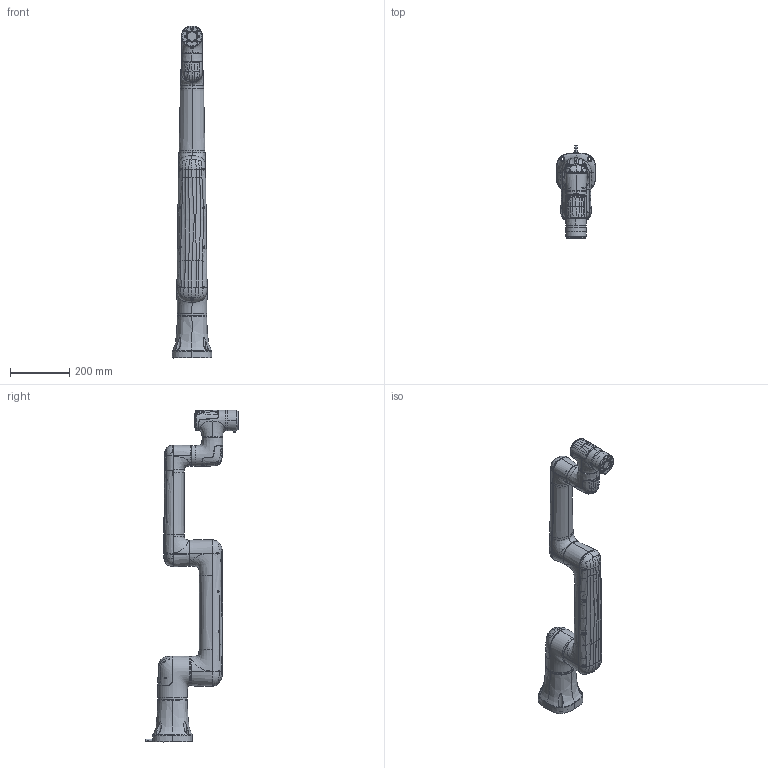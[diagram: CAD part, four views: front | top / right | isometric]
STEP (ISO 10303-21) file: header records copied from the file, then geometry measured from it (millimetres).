
FILE_DESCRIPTION((''),'2;1');
FILE_NAME('NC05-850-STP-20221011_ASM_1_ASM','2022-10-27T10:04:22',('Administrator'),(''),'CREO PARAMETRIC BY PTC INC, 2017260','CREO PARAMETRIC BY PTC INC, 2017260','');
FILE_SCHEMA(('CONFIG_CONTROL_DESIGN'));
Products named in the file (29): BASE-PART1_1; BASE-PART2_1; BASE-PART3_1; BASE_ASM_1_ASM; J1-PART1_1; J1-PART2_1; J1-PART3_1; J1_ASM_1_ASM; J2-PART1_1; J2-PART2_1; J2_ASM_1_ASM; J3-PART1_1; J3-PART2_1; J3_ASM_1_ASM; J4-PART1_1; J4-PART2_1; J4_ASM_1_ASM; J5-PART1_1; J5-PART2_1; J5-PART3_1; J5-PART4_1; J5-PART5_1; J5_ASM_1_ASM; J6-PART1_1; J6-PART2_1; J6-PART3_1; GB_T70P3_M2P5X6_2_1_1_1_1_1_1; J6_ASM_1_ASM; NC05-850-STP-20221011_ASM_1_ASM
Assembly tree (29 placements, depth 3):
  NC05-850-STP-20221011_ASM_1_ASM
    BASE_ASM_1_ASM
      BASE-PART1_1
      BASE-PART2_1
      BASE-PART3_1
    J1_ASM_1_ASM
      J1-PART1_1
      J1-PART2_1
      J1-PART3_1
    J2_ASM_1_ASM
      J2-PART1_1
      J2-PART2_1
    J3_ASM_1_ASM
      J3-PART1_1
      J3-PART2_1
    J4_ASM_1_ASM
      J4-PART1_1
      J4-PART2_1
    J5_ASM_1_ASM
      J5-PART1_1
      J5-PART2_1
      J5-PART3_1
      J5-PART4_1
      J5-PART5_1
    J6_ASM_1_ASM
      J6-PART1_1
      J6-PART2_1
      J6-PART3_1
      GB_T70P3_M2P5X6_2_1_1_1_1_1_1  x2
Bounding box: 135 x 314 x 1125.37 mm (x, y, z)
Volume: 7508249.2 mm3; surface area: 858601.8 mm2
Topology: 22 solids, 40 shells, 2740 faces, 6978 edges, 4331 vertices
Faces by surface type: bspline 1041, cylinder 575, plane 493, cone 277, torus 193, extrusion 135, sphere 26
Entity records: 211872 total; most frequent: CARTESIAN_POINT 154870, ORIENTED_EDGE 13738, DIRECTION 8539, EDGE_CURVE 6869, VERTEX_POINT 4294, B_SPLINE_CURVE_WITH_KNOTS 3573, AXIS2_PLACEMENT_3D 3363, EDGE_LOOP 2859
